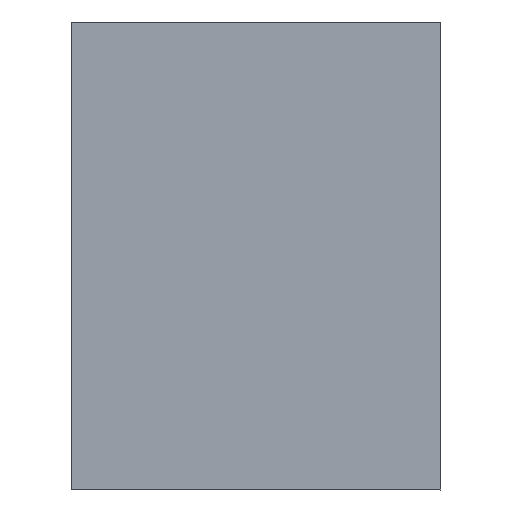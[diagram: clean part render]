
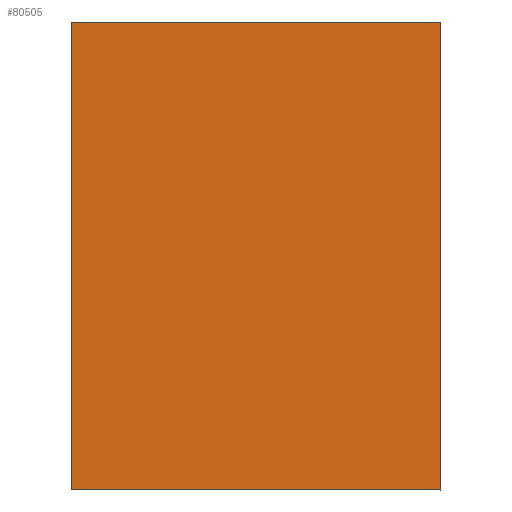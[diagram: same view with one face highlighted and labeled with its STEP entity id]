
A CAD part, top view. The second image highlights one B-rep face of the part: STEP entity #80505.
In plain terms, the highlighted planar face has unit normal (0, 0, 1) as drawn and (-1, 0, 0) by its records, which use the part's own axes.
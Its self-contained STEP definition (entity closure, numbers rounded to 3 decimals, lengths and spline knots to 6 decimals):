
#590=LINE('',#116635,#10335);
#596=LINE('',#116646,#10341);
#598=LINE('',#116650,#10343);
#599=LINE('',#116651,#10344);
#10335=VECTOR('',#93725,1.);
#10341=VECTOR('',#93733,1.);
#10343=VECTOR('',#93737,1.);
#10344=VECTOR('',#93738,1.);
#20594=PLANE('',#86946);
#23827=ORIENTED_EDGE('',*,*,#48043,.F.);
#23828=ORIENTED_EDGE('',*,*,#48051,.F.);
#23829=ORIENTED_EDGE('',*,*,#48049,.T.);
#23830=ORIENTED_EDGE('',*,*,#48052,.T.);
#48043=EDGE_CURVE('',#60185,#60186,#590,.T.);
#48049=EDGE_CURVE('',#60190,#60189,#596,.T.);
#48051=EDGE_CURVE('',#60190,#60185,#598,.T.);
#48052=EDGE_CURVE('',#60189,#60186,#599,.T.);
#60185=VERTEX_POINT('',#116634);
#60186=VERTEX_POINT('',#116636);
#60189=VERTEX_POINT('',#116645);
#60190=VERTEX_POINT('',#116647);
#70473=EDGE_LOOP('',(#23827,#23828,#23829,#23830));
#74941=FACE_BOUND('',#70473,.T.);
#80505=ADVANCED_FACE('',(#74941),#20594,.F.);
#86946=AXIS2_PLACEMENT_3D('',#116649,#93735,#93736);
#93725=DIRECTION('',(0.,0.,-1.));
#93733=DIRECTION('',(0.,0.,-1.));
#93735=DIRECTION('',(1.,0.,0.));
#93736=DIRECTION('',(0.,-1.,0.));
#93737=DIRECTION('',(0.,-1.,0.));
#93738=DIRECTION('',(0.,-1.,0.));
#116634=CARTESIAN_POINT('',(-0.016784,-0.031394,0.024786));
#116635=CARTESIAN_POINT('',(-0.016784,-0.031394,0.024788));
#116636=CARTESIAN_POINT('',(-0.016784,-0.031394,-0.024786));
#116645=CARTESIAN_POINT('',(-0.016784,0.031394,-0.024786));
#116646=CARTESIAN_POINT('',(-0.016784,0.031394,0.024788));
#116647=CARTESIAN_POINT('',(-0.016784,0.031394,0.024786));
#116649=CARTESIAN_POINT('',(-0.016784,0.,0.024788));
#116650=CARTESIAN_POINT('',(-0.016784,0.,0.024786));
#116651=CARTESIAN_POINT('',(-0.016784,0.,-0.024786));
